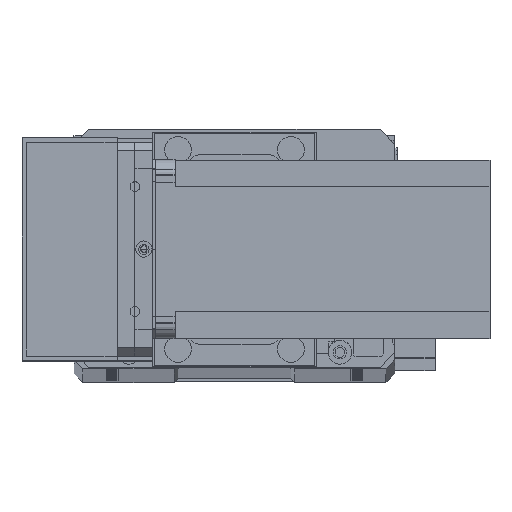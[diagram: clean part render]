
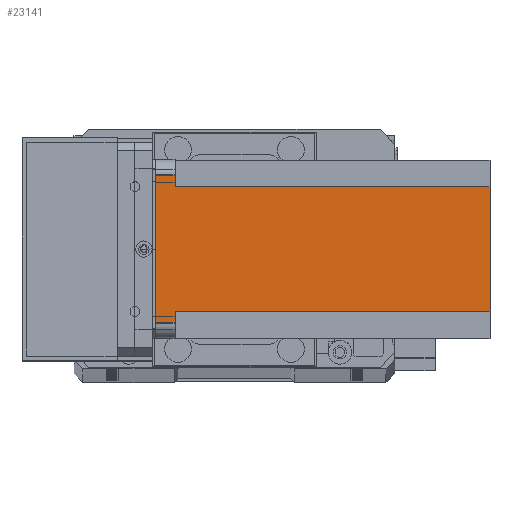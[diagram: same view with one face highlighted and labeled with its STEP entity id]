
A CAD part, top view. The second image highlights one B-rep face of the part: STEP entity #23141.
In plain terms, the highlighted planar face has unit normal (0, 0, 1) as drawn and (1, 0, 0) by its records, which use the part's own axes.
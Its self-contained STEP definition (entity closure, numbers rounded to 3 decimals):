
#1124 = DIRECTION ( 'NONE',  ( 0., 0., 1. ) ) ;
#1364 = ORIENTED_EDGE ( 'NONE', *, *, #15719, .F. ) ;
#1823 = ORIENTED_EDGE ( 'NONE', *, *, #7882, .F. ) ;
#2143 = VERTEX_POINT ( 'NONE', #19263 ) ;
#2581 = EDGE_LOOP ( 'NONE', ( #14937, #26569, #26980, #30742, #1823, #1364, #24356, #23632 ) ) ;
#2659 = EDGE_CURVE ( 'NONE', #20444, #12363, #19479, .T. ) ;
#3779 = EDGE_CURVE ( 'NONE', #11990, #22017, #32944, .T. ) ;
#4414 = FACE_OUTER_BOUND ( 'NONE', #2581, .T. ) ;
#4609 = VECTOR ( 'NONE', #20770, 1000. ) ;
#5062 = LINE ( 'NONE', #29802, #25472 ) ;
#7709 = CARTESIAN_POINT ( 'NONE',  ( 60., 51., -112.5 ) ) ;
#7882 = EDGE_CURVE ( 'NONE', #2143, #9510, #32677, .T. ) ;
#9313 = VECTOR ( 'NONE', #18855, 1000. ) ;
#9396 = VERTEX_POINT ( 'NONE', #18406 ) ;
#9510 = VERTEX_POINT ( 'NONE', #10919 ) ;
#10461 = VECTOR ( 'NONE', #32596, 1000. ) ;
#10597 = VECTOR ( 'NONE', #25987, 1000. ) ;
#10623 = CARTESIAN_POINT ( 'NONE',  ( 60., 0., -112.5 ) ) ;
#10629 = DIRECTION ( 'NONE',  ( 0., 1., 0. ) ) ;
#10919 = CARTESIAN_POINT ( 'NONE',  ( 60., 5., -6.5 ) ) ;
#11156 = DIRECTION ( 'NONE',  ( 0., 1., 0. ) ) ;
#11400 = VECTOR ( 'NONE', #31556, 1000. ) ;
#11990 = VERTEX_POINT ( 'NONE', #19494 ) ;
#12363 = VERTEX_POINT ( 'NONE', #7709 ) ;
#13459 = LINE ( 'NONE', #17055, #20525 ) ;
#14937 = ORIENTED_EDGE ( 'NONE', *, *, #3779, .F. ) ;
#15415 = CARTESIAN_POINT ( 'NONE',  ( 60., 60., -6.5 ) ) ;
#15719 = EDGE_CURVE ( 'NONE', #20444, #2143, #24796, .T. ) ;
#15817 = CARTESIAN_POINT ( 'NONE',  ( 60., 51., -6.5 ) ) ;
#16320 = DIRECTION ( 'NONE',  ( 0., 1., 0. ) ) ;
#16420 = LINE ( 'NONE', #24095, #9313 ) ;
#16490 = EDGE_CURVE ( 'NONE', #22017, #12363, #16420, .T. ) ;
#17055 = CARTESIAN_POINT ( 'NONE',  ( 60., 55., -112.5 ) ) ;
#17720 = VERTEX_POINT ( 'NONE', #28695 ) ;
#18090 = EDGE_CURVE ( 'NONE', #11990, #9396, #13459, .T. ) ;
#18399 = LINE ( 'NONE', #21896, #10461 ) ;
#18406 = CARTESIAN_POINT ( 'NONE',  ( 60., 55., 0. ) ) ;
#18644 = VECTOR ( 'NONE', #10629, 1000. ) ;
#18855 = DIRECTION ( 'NONE',  ( 0., 0., -1. ) ) ;
#19107 = PLANE ( 'NONE',  #33089 ) ;
#19263 = CARTESIAN_POINT ( 'NONE',  ( 60., 9., -6.5 ) ) ;
#19479 = LINE ( 'NONE', #10623, #18644 ) ;
#19494 = CARTESIAN_POINT ( 'NONE',  ( 60., 55., -6.5 ) ) ;
#19638 = CARTESIAN_POINT ( 'NONE',  ( 60., 9., -112.5 ) ) ;
#20444 = VERTEX_POINT ( 'NONE', #19638 ) ;
#20525 = VECTOR ( 'NONE', #1124, 1000. ) ;
#20770 = DIRECTION ( 'NONE',  ( 0., -1., 0. ) ) ;
#21786 = CARTESIAN_POINT ( 'NONE',  ( 60., 0., -112.5 ) ) ;
#21896 = CARTESIAN_POINT ( 'NONE',  ( 60., 5., -112.5 ) ) ;
#22017 = VERTEX_POINT ( 'NONE', #15817 ) ;
#23141 = ADVANCED_FACE ( 'NONE', ( #4414 ), #19107, .T. ) ;
#23306 = CARTESIAN_POINT ( 'NONE',  ( 60., 9., -112.5 ) ) ;
#23632 = ORIENTED_EDGE ( 'NONE', *, *, #16490, .F. ) ;
#24095 = CARTESIAN_POINT ( 'NONE',  ( 60., 51., -112.5 ) ) ;
#24356 = ORIENTED_EDGE ( 'NONE', *, *, #2659, .T. ) ;
#24796 = LINE ( 'NONE', #23306, #10597 ) ;
#25472 = VECTOR ( 'NONE', #16320, 1000. ) ;
#25987 = DIRECTION ( 'NONE',  ( 0., 0., 1. ) ) ;
#26569 = ORIENTED_EDGE ( 'NONE', *, *, #18090, .T. ) ;
#26980 = ORIENTED_EDGE ( 'NONE', *, *, #32782, .F. ) ;
#27136 = DIRECTION ( 'NONE',  ( 1., 0., 0. ) ) ;
#28695 = CARTESIAN_POINT ( 'NONE',  ( 60., 5., 0. ) ) ;
#28905 = CARTESIAN_POINT ( 'NONE',  ( 60., 0., -6.5 ) ) ;
#29802 = CARTESIAN_POINT ( 'NONE',  ( 60., 0., 0. ) ) ;
#30742 = ORIENTED_EDGE ( 'NONE', *, *, #32792, .T. ) ;
#31556 = DIRECTION ( 'NONE',  ( 0., -1., 0. ) ) ;
#32596 = DIRECTION ( 'NONE',  ( 0., 0., -1. ) ) ;
#32677 = LINE ( 'NONE', #28905, #11400 ) ;
#32782 = EDGE_CURVE ( 'NONE', #17720, #9396, #5062, .T. ) ;
#32792 = EDGE_CURVE ( 'NONE', #17720, #9510, #18399, .T. ) ;
#32944 = LINE ( 'NONE', #15415, #4609 ) ;
#33089 = AXIS2_PLACEMENT_3D ( 'NONE', #21786, #27136, #11156 ) ;
